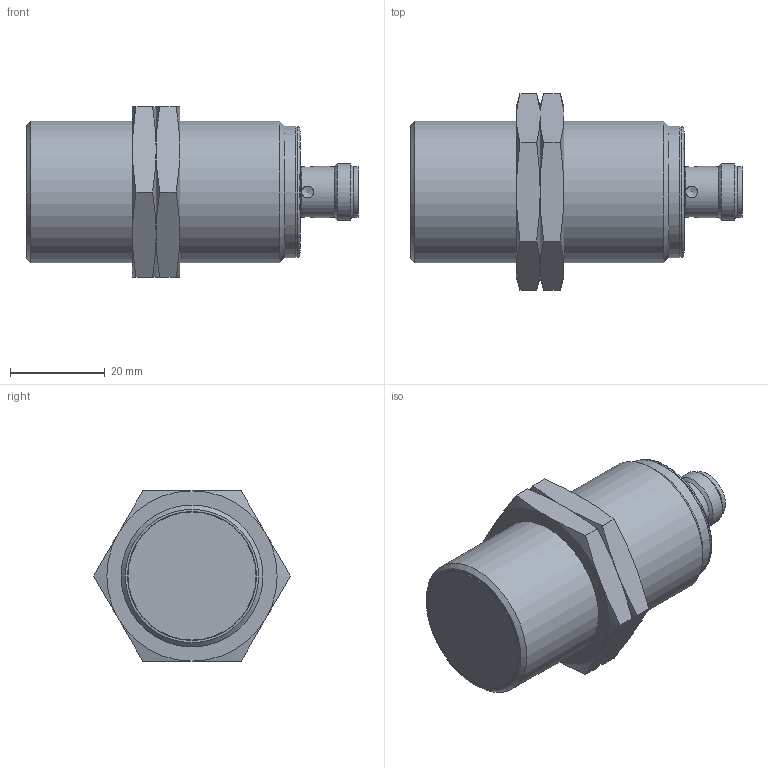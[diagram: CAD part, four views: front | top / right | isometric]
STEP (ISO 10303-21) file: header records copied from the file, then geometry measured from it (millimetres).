
FILE_DESCRIPTION( ( 'STEP AP203' ), '1' );
FILE_NAME( 'p:/temp/worker_42/temp/exporttempdir_3912_131_6PaTC/format_0/II5842.stp', '2021-10-15T07:26:15', ( 'License CC BY-ND 4.0' ), ( 'CADENAS' ), ' ', 'PARTsolutions', ' ' );
FILE_SCHEMA( ( 'CONFIG_CONTROL_DESIGN' ) );
Length unit declared in the file: millimetre
Products named in the file (3): II5842; _II5842_P1; _II5842_P2
Assembly tree (3 placements, depth 2):
  II5842
    _II5842_P1
    _II5842_P2  x2
Bounding box: 70.17 x 41.57 x 36 mm (x, y, z)
Volume: 45888.2 mm3; surface area: 11279.5 mm2
Topology: 3 solids, 3 shells, 86 faces, 183 edges, 108 vertices
Faces by surface type: cone 38, plane 27, cylinder 16, torus 5
Full cylindrical faces by diameter (mm): 2.5 x4, 8.35 x1, 10.46 x1, 10.6 x1, 10.8 x1, 12 x1, 27.26 x1, 27.5 x1, 27.8 x1, 28.376 x2, 30 x1
Entity records: 1792 total; most frequent: CARTESIAN_POINT 514, DIRECTION 248, ORIENTED_EDGE 188, AXIS2_PLACEMENT_3D 117, EDGE_LOOP 101, EDGE_CURVE 94, FACE_OUTER_BOUND 81, VERTEX_POINT 75
